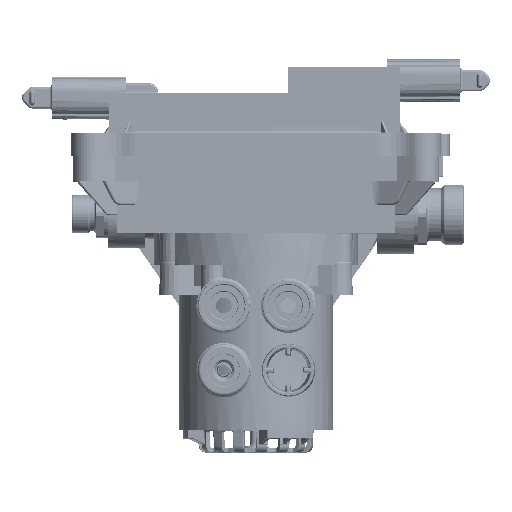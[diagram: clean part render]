
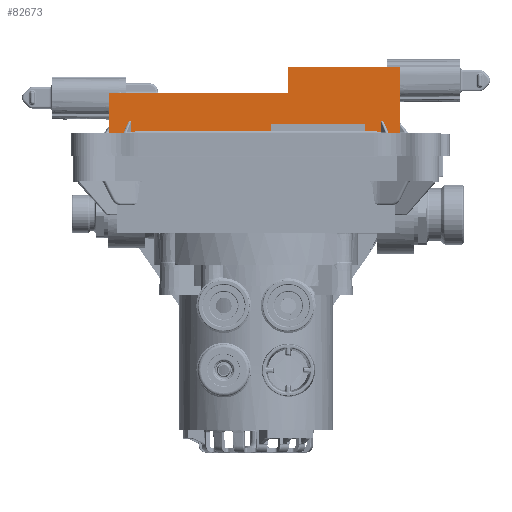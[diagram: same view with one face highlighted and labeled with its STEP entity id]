
A CAD part, top view. The second image highlights one B-rep face of the part: STEP entity #82673.
In plain terms, the highlighted planar face has unit normal (0, 0, 1) as drawn and (-1, 0, 0) by its records, which use the part's own axes.
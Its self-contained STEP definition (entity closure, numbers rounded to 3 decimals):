
#75631=DIRECTION('',(0.,0.,-1.));
#75632=VECTOR('',#75631,30.6);
#75633=CARTESIAN_POINT('',(-65.804,-66.728,33.1));
#75634=LINE('',#75633,#75632);
#75635=DIRECTION('',(0.,1.,0.));
#75636=VECTOR('',#75635,135.058);
#75637=CARTESIAN_POINT('',(-65.804,-66.728,2.5));
#75638=LINE('',#75637,#75636);
#75659=DIRECTION('',(0.,1.,0.));
#75660=VECTOR('',#75659,83.418);
#75661=CARTESIAN_POINT('',(-65.804,-15.088,21.1));
#75662=LINE('',#75661,#75660);
#76356=DIRECTION('',(0.,0.,-1.));
#76357=VECTOR('',#76356,18.6);
#76358=CARTESIAN_POINT('',(-65.804,68.33,21.1));
#76359=LINE('',#76358,#76357);
#77200=DIRECTION('',(0.,1.,0.));
#77201=VECTOR('',#77200,51.64);
#77202=CARTESIAN_POINT('',(-65.804,-66.728,33.1));
#77203=LINE('',#77202,#77201);
#78674=DIRECTION('',(0.,0.,-1.));
#78675=VECTOR('',#78674,12.);
#78676=CARTESIAN_POINT('',(-65.804,-15.088,33.1));
#78677=LINE('',#78676,#78675);
#80180=CARTESIAN_POINT('',(-65.804,-66.728,2.5));
#80181=VERTEX_POINT('',#80180);
#80182=CARTESIAN_POINT('',(-65.804,-66.728,33.1));
#80183=VERTEX_POINT('',#80182);
#80608=CARTESIAN_POINT('',(-65.804,-15.088,33.1));
#80609=VERTEX_POINT('',#80608);
#80664=CARTESIAN_POINT('',(-65.804,-15.088,21.1));
#80665=CARTESIAN_POINT('',(-65.804,68.33,21.1));
#80666=VERTEX_POINT('',#80664);
#80667=VERTEX_POINT('',#80665);
#80668=CARTESIAN_POINT('',(-65.804,68.33,2.5));
#80669=VERTEX_POINT('',#80668);
#82655=CARTESIAN_POINT('',(-65.804,68.33,2.5));
#82656=DIRECTION('',(-1.,0.,0.));
#82657=DIRECTION('',(0.,-1.,0.));
#82658=AXIS2_PLACEMENT_3D('',#82655,#82656,#82657);
#82659=PLANE('',#82658);
#82661=ORIENTED_EDGE('',*,*,#82660,.F.);
#82663=ORIENTED_EDGE('',*,*,#82662,.F.);
#82665=ORIENTED_EDGE('',*,*,#82664,.F.);
#82667=ORIENTED_EDGE('',*,*,#82666,.T.);
#82668=ORIENTED_EDGE('',*,*,#82477,.T.);
#82670=ORIENTED_EDGE('',*,*,#82669,.F.);
#82671=EDGE_LOOP('',(#82661,#82663,#82665,#82667,#82668,#82670));
#82672=FACE_OUTER_BOUND('',#82671,.F.);
#82477=EDGE_CURVE('',#80181,#80669,#75638,.T.);
#82660=EDGE_CURVE('',#80666,#80667,#75662,.T.);
#82662=EDGE_CURVE('',#80609,#80666,#78677,.T.);
#82664=EDGE_CURVE('',#80183,#80609,#77203,.T.);
#82666=EDGE_CURVE('',#80183,#80181,#75634,.T.);
#82669=EDGE_CURVE('',#80667,#80669,#76359,.T.);
#82673=ADVANCED_FACE('',(#82672),#82659,.T.);
